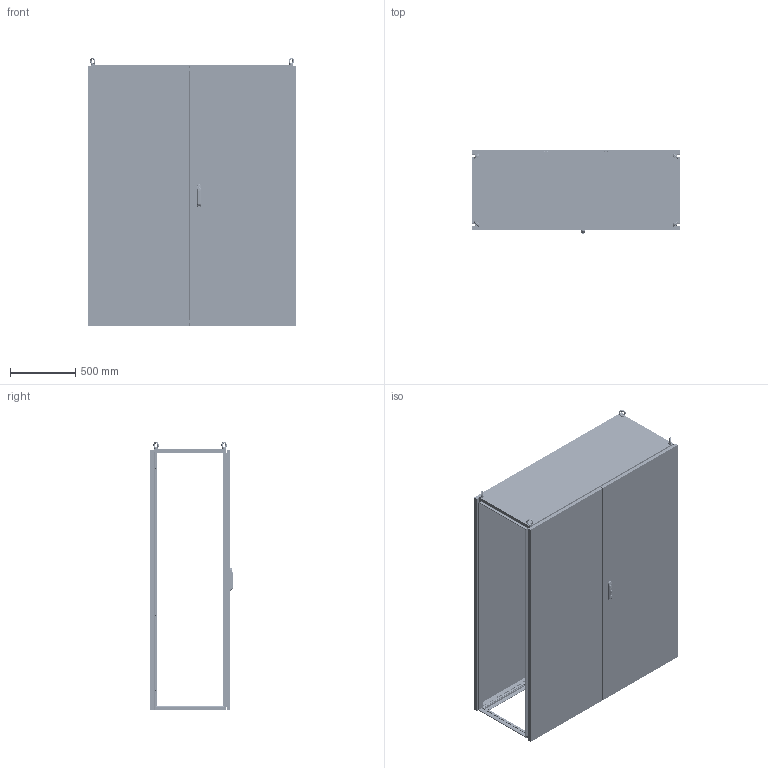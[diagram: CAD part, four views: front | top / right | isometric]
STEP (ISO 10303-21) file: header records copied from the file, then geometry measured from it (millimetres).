
FILE_DESCRIPTION(/* description */ ('Unknown'),/* implementation_level */ '2;1');
FILE_NAME(/* name */ 'MCA16020060',/* time_stamp */ '2025-03-07T13:33:26+01:00',/* author */ ('Unknown'),/* organization */ ('Unknown'),/* preprocessor_version */ 'ST-DEVELOPER v19.4',/* originating_system */ 'Solid Edge',/* authorisation */ 'Unknown');
FILE_SCHEMA (('CONFIG_CONTROL_DESIGN'));
Products named in the file (65): MCA16020060; F0000000.08; AE00198.03; F000X001.73; F000X001.74; F000X001.75; F0000001.35; AE00417.01; AE00413.05; F000X000.10; F0000002.22; F0000002.17; AE01400.01; AE00222.15; AE00636.02; AE00316.01; F0000000.12; AE00992.31; AE00992.10_oa_0; AE00992.18; AE00992.78; AE00992.14; AE00989.13; AE00992.16; AE00315.01; M000X001.20; M0000000.14; AE00500.10; M000X001.21; M0000000.52; M0000000.39; M0000000.06; M000X000.23; M0000000.40; M0000000.41; AE00219.03; AE00715.01; M000X001.31; M0000001.14; C0000000.06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
Assembly tree (290 placements, depth 5):
  MCA16020060
    F0000000.08  x8
    AE00198.03  x16
    F000X001.73
      F000X001.74
        F000X001.75
          F0000001.35
        AE00417.01  x2
        AE00413.05  x4
        F000X000.10
          F0000002.22  x2
          F0000002.17  x2
          AE01400.01  x4
      AE00222.15  x8
      AE00636.02  x8
      AE00316.01  x8
      F0000000.12  x8
      AE00992.31
      AE00992.10_oa_0
      AE00992.18  x4
      AE00992.78  x2
      AE00992.14
      AE00989.13
      AE00992.16
      AE00315.01  x4
    M000X001.20
      M0000000.14  x4
      AE00500.10  x52
      M000X001.21  x2
        M0000000.52
        M0000000.39
        M0000000.06
        M000X000.23
          M0000000.40
          M0000000.41
    AE00219.03  x10
    AE00715.01  x4
    M000X001.31
      M0000001.14
    C0000000.06  x4
      C0000001.23
      C0000000.06_GOMMA
    F0000000.13  x8
    F000X001.89
      F000X001.90
        F0000001.41
      F0000000.07  x4
      AE00100.03_oa_1
      AE00100.03_oa_2
      AE00100.03_oa_3
      AE00100.03_oa_4
      AE00100.03_oa_5
      AE00100.03_oa_6
      AE00100.03_oa_7
      AE00100.03_oa_8
    AE00701.03  x8
    M0000000.37  x10
    F000X001.70
      F000X001.71
        F000X001.72
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Bounding box: 1600 x 638.2 x 2056.96 mm (x, y, z)
Volume: 31771776.9 mm3; surface area: 25570967.6 mm2
Topology: 320 solids, 320 shells, 14573 faces, 41794 edges, 28079 vertices
Faces by surface type: plane 10251, cylinder 3491, cone 688, torus 94, bspline 25, sphere 24
Full cylindrical faces by diameter (mm): 2 x8, 2.6 x8, 3 x1, 3.2 x2, 3.242 x2, 4 x34, 4.134 x9, 4.25 x404, 4.5 x1358, 4.8 x8, 4.917 x74, 4.918 x16, 5 x20, 5.5 x2, 6 x88, 6.1 x40, 6.2 x17, 6.5 x24, 6.8 x2, 7.5 x4, 7.8 x4, 8 x12, 8.3 x16, 8.5 x2, 9 x52, 10 x1, 10.106 x8, 10.5 x16, 11.8 x16, 12 x22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
Entity records: 117175 total; most frequent: CARTESIAN_POINT 20836, ORIENTED_EDGE 18102, DIRECTION 17910, EDGE_CURVE 9051, LINE 7102, VECTOR 7102, VERTEX_POINT 6418, FACE_BOUND 5933
